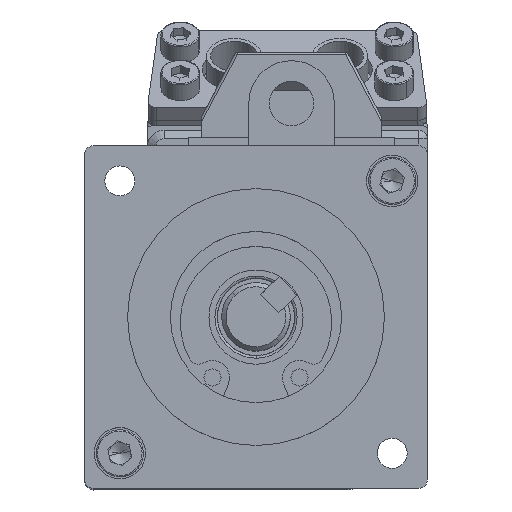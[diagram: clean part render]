
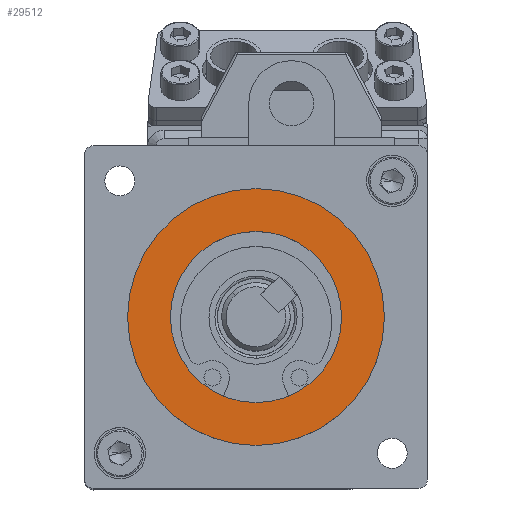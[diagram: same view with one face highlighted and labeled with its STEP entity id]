
A CAD part, top view. The second image highlights one B-rep face of the part: STEP entity #29512.
In plain terms, the highlighted planar face has unit normal (0, 0, 1).
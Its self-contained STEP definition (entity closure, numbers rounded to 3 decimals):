
#618 = CIRCLE ( 'NONE', #10970, 15. ) ;
#3452 = AXIS2_PLACEMENT_3D ( 'NONE', #13712, #31534, #16304 ) ;
#3461 = ORIENTED_EDGE ( 'NONE', *, *, #10341, .T. ) ;
#3653 = CARTESIAN_POINT ( 'NONE',  ( 68.478, 20., 115.595 ) ) ;
#4593 = CARTESIAN_POINT ( 'NONE',  ( 68.478, 20., 115.595 ) ) ;
#6238 = DIRECTION ( 'NONE',  ( 1., 0., 0. ) ) ;
#6549 = EDGE_CURVE ( 'NONE', #15224, #6884, #618, .T. ) ;
#6884 = VERTEX_POINT ( 'NONE', #13894 ) ;
#7055 = EDGE_LOOP ( 'NONE', ( #15530, #30249 ) ) ;
#7208 = DIRECTION ( 'NONE',  ( 1., 0., 0. ) ) ;
#8563 = VERTEX_POINT ( 'NONE', #19877 ) ;
#10341 = EDGE_CURVE ( 'NONE', #6884, #15224, #28815, .T. ) ;
#10876 = DIRECTION ( 'NONE',  ( 0., 0., 1. ) ) ;
#10903 = CARTESIAN_POINT ( 'NONE',  ( 68.478, 20., 115.595 ) ) ;
#10970 = AXIS2_PLACEMENT_3D ( 'NONE', #4593, #22529, #7208 ) ;
#13471 = FACE_OUTER_BOUND ( 'NONE', #32419, .T. ) ;
#13474 = DIRECTION ( 'NONE',  ( 1., 0., 0. ) ) ;
#13712 = CARTESIAN_POINT ( 'NONE',  ( 68.478, 20., 115.595 ) ) ;
#13894 = CARTESIAN_POINT ( 'NONE',  ( 53.478, 20., 115.595 ) ) ;
#14003 = VERTEX_POINT ( 'NONE', #22656 ) ;
#15180 = CIRCLE ( 'NONE', #18598, 10. ) ;
#15224 = VERTEX_POINT ( 'NONE', #16143 ) ;
#15530 = ORIENTED_EDGE ( 'NONE', *, *, #28033, .F. ) ;
#16143 = CARTESIAN_POINT ( 'NONE',  ( 83.478, 20., 115.595 ) ) ;
#16304 = DIRECTION ( 'NONE',  ( 1., 0., 0. ) ) ;
#16677 = ORIENTED_EDGE ( 'NONE', *, *, #6549, .T. ) ;
#16820 = AXIS2_PLACEMENT_3D ( 'NONE', #26179, #10876, #28732 ) ;
#17977 = CIRCLE ( 'NONE', #3452, 10. ) ;
#18475 = PLANE ( 'NONE',  #16820 ) ;
#18598 = AXIS2_PLACEMENT_3D ( 'NONE', #3653, #21589, #6238 ) ;
#19102 = EDGE_CURVE ( 'NONE', #8563, #14003, #15180, .T. ) ;
#19877 = CARTESIAN_POINT ( 'NONE',  ( 78.478, 20., 115.595 ) ) ;
#21589 = DIRECTION ( 'NONE',  ( 0., 0., 1. ) ) ;
#22529 = DIRECTION ( 'NONE',  ( 0., 0., 1. ) ) ;
#22656 = CARTESIAN_POINT ( 'NONE',  ( 58.478, 20., 115.595 ) ) ;
#26179 = CARTESIAN_POINT ( 'NONE',  ( 68.478, 20., 115.595 ) ) ;
#28033 = EDGE_CURVE ( 'NONE', #14003, #8563, #17977, .T. ) ;
#28732 = DIRECTION ( 'NONE',  ( 1., 0., 0. ) ) ;
#28766 = DIRECTION ( 'NONE',  ( 0., 0., 1. ) ) ;
#28815 = CIRCLE ( 'NONE', #31428, 15. ) ;
#29512 = ADVANCED_FACE ( 'NONE', ( #32155, #13471 ), #18475, .T. ) ;
#30249 = ORIENTED_EDGE ( 'NONE', *, *, #19102, .F. ) ;
#31428 = AXIS2_PLACEMENT_3D ( 'NONE', #10903, #28766, #13474 ) ;
#31534 = DIRECTION ( 'NONE',  ( 0., 0., 1. ) ) ;
#32155 = FACE_BOUND ( 'NONE', #7055, .T. ) ;
#32419 = EDGE_LOOP ( 'NONE', ( #3461, #16677 ) ) ;
